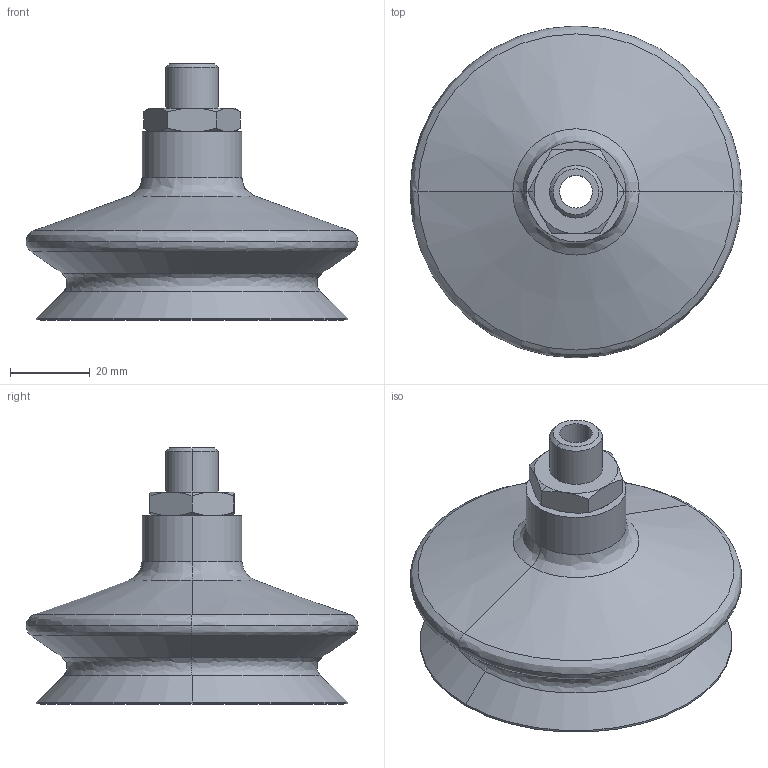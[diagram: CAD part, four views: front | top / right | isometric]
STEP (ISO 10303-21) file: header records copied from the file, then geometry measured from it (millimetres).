
FILE_DESCRIPTION (( 'STEP AP203' ), '1' );
FILE_NAME ('FSGA-73-HT1-60.STEP', '2024-03-04T03:19:05', ( '微软用户' ), ( '微软中国' ), 'SwSTEP 2.0', 'SolidWorks 2018', '' );
FILE_SCHEMA (( 'CONFIG_CONTROL_DESIGN' ));
Length unit declared in the file: millimetre
Products named in the file (1): FSGA-73-HT1-60
Bounding box: 83 x 83 x 64 mm (x, y, z)
Volume: 54551.2 mm3; surface area: 28709.1 mm2
Topology: 1 solids, 1 shells, 64 faces, 132 edges, 78 vertices
Faces by surface type: cylinder 18, cone 16, plane 16, bspline 14
Entity records: 2259 total; most frequent: CARTESIAN_POINT 843, DIRECTION 298, ORIENTED_EDGE 264, EDGE_CURVE 132, AXIS2_PLACEMENT_3D 129, CIRCLE 78, VERTEX_POINT 78, EDGE_LOOP 74
